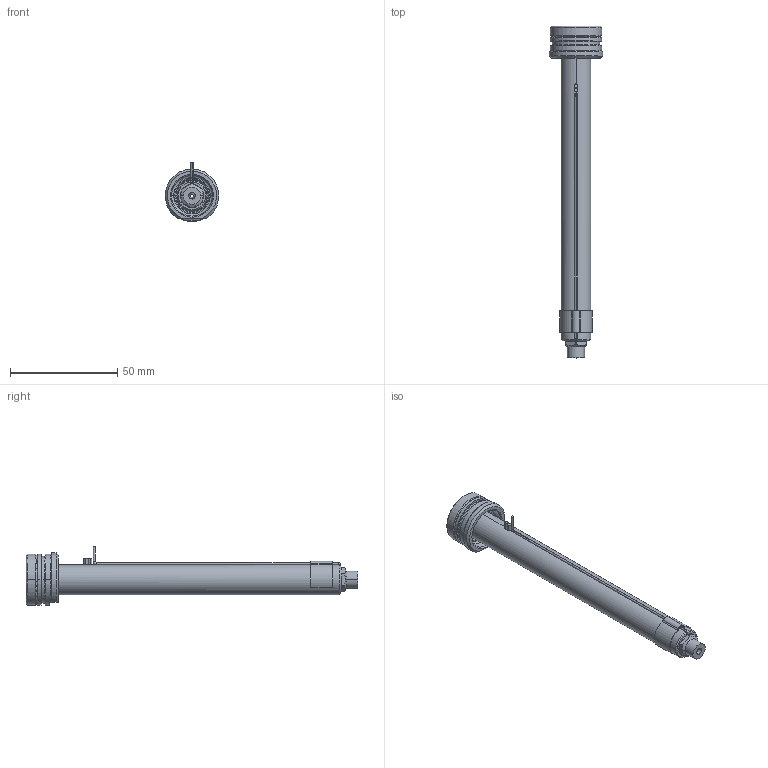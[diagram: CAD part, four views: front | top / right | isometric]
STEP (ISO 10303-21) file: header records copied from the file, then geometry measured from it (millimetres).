
FILE_DESCRIPTION((''),'2;1');
FILE_NAME('EO04_SG_SG_140_SW','2024-02-19T12:12:35',('sundharh'),(''),'CREO PARAMETRIC BY PTC INC, 2023154','CREO PARAMETRIC BY PTC INC, 2023154','');
FILE_SCHEMA(('CONFIG_CONTROL_DESIGN'));
Length unit declared in the file: millimetre
Products named in the file (1): EO04_SG_SG_140_SW
Bounding box: 24.99 x 155 x 27.5 mm (x, y, z)
Volume: 25052.5 mm3; surface area: 11916.4 mm2
Topology: 2 solids, 2 shells, 182 faces, 461 edges, 277 vertices
Faces by surface type: cylinder 67, plane 45, cone 34, torus 22, bspline 11, sphere 3
Entity records: 6495 total; most frequent: CARTESIAN_POINT 2103, DIRECTION 950, ORIENTED_EDGE 906, EDGE_CURVE 453, AXIS2_PLACEMENT_3D 395, VERTEX_POINT 277, CIRCLE 224, EDGE_LOOP 196
